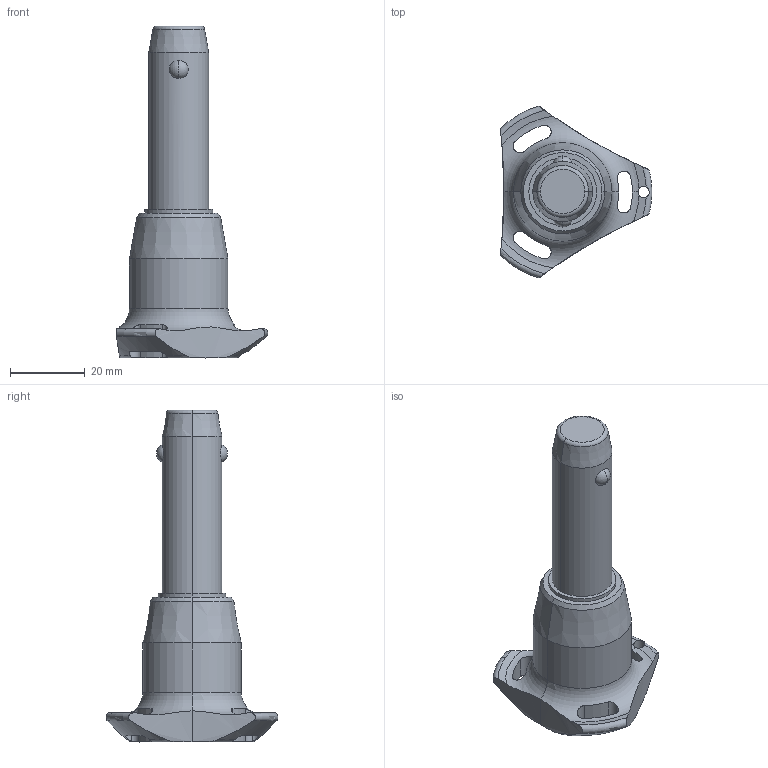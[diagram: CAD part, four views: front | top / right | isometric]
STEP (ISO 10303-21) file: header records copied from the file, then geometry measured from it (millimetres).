
FILE_DESCRIPTION (( 'STEP AP203' ), '1' );
FILE_NAME ('QR1724.M16-035-S.step', '2025-11-12T13:01:24', ( '' ), ( '' ), 'SwSTEP 2.0', 'SolidWorks 2019', '' );
FILE_SCHEMA (( 'CONFIG_CONTROL_DESIGN' ));
Length unit declared in the file: millimetre
Products named in the file (1): QR1724.M16-035-S
Bounding box: 40.5 x 45.88 x 88.7 mm (x, y, z)
Volume: 32133.8 mm3; surface area: 8417.8 mm2
Topology: 1 solids, 1 shells, 65 faces, 178 edges, 113 vertices
Faces by surface type: cylinder 30, cone 14, torus 11, sphere 6, plane 4
Entity records: 2870 total; most frequent: CARTESIAN_POINT 1181, ORIENTED_EDGE 356, DIRECTION 329, EDGE_CURVE 178, AXIS2_PLACEMENT_3D 147, VERTEX_POINT 113, CIRCLE 81, EDGE_LOOP 71
